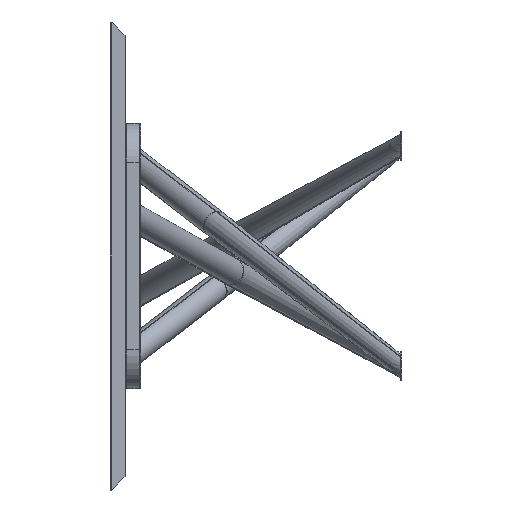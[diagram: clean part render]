
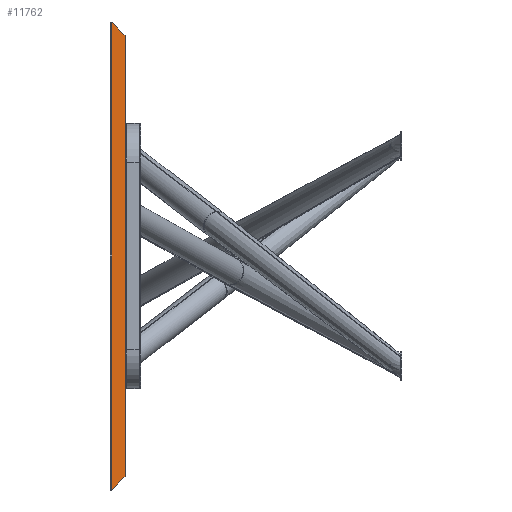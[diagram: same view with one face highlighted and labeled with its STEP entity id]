
A CAD part, left-side view. The second image highlights one B-rep face of the part: STEP entity #11762.
In plain terms, the highlighted planar face has unit normal (-0.707, -0.707, 0).
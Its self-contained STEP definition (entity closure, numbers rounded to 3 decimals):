
#601 = CARTESIAN_POINT ( 'NONE',  ( -1498.536, 33.536, -598.536 ) ) ;
#773 = DIRECTION ( 'NONE',  ( 0.577, -0.577, -0.577 ) ) ;
#1060 = VERTEX_POINT ( 'NONE', #1971 ) ;
#1667 = AXIS2_PLACEMENT_3D ( 'NONE', #7234, #10989, #7366 ) ;
#1672 = EDGE_CURVE ( 'NONE', #1735, #1804, #3302, .T. ) ;
#1727 = CARTESIAN_POINT ( 'NONE',  ( -1500., 35., 596.344 ) ) ;
#1735 = VERTEX_POINT ( 'NONE', #3279 ) ;
#1778 = LINE ( 'NONE', #12068, #9051 ) ;
#1804 = VERTEX_POINT ( 'NONE', #11312 ) ;
#1971 = CARTESIAN_POINT ( 'NONE',  ( -1498.536, 33.536, 598.536 ) ) ;
#2182 = ORIENTED_EDGE ( 'NONE', *, *, #10632, .T. ) ;
#2652 = LINE ( 'NONE', #7465, #8229 ) ;
#2807 = ORIENTED_EDGE ( 'NONE', *, *, #11530, .T. ) ;
#3279 = CARTESIAN_POINT ( 'NONE',  ( -1500., 35., -595. ) ) ;
#3294 = EDGE_CURVE ( 'NONE', #1060, #10266, #2652, .T. ) ;
#3302 =( BOUNDED_CURVE ( )  B_SPLINE_CURVE ( 3, ( #9874, #8948, #7846, #601 ),
 .UNSPECIFIED., .F., .F. ) 
 B_SPLINE_CURVE_WITH_KNOTS ( ( 4, 4 ),
 ( 3.142, 3.927 ),
 .UNSPECIFIED. ) 
 CURVE ( )  GEOMETRIC_REPRESENTATION_ITEM ( )  RATIONAL_B_SPLINE_CURVE ( ( 1., 0.949, 0.949, 1. ) ) 
 REPRESENTATION_ITEM ( '' )  );
#3549 = CARTESIAN_POINT ( 'NONE',  ( -1500., 35., 595. ) ) ;
#3789 = CARTESIAN_POINT ( 'NONE',  ( -1465.293, 0.293, 565.293 ) ) ;
#4014 = EDGE_LOOP ( 'NONE', ( #11877, #2807, #8538, #2182, #4334, #10153 ) ) ;
#4085 = CARTESIAN_POINT ( 'NONE',  ( -1465.293, 0.293, 565. ) ) ;
#4167 = VECTOR ( 'NONE', #9077, 1000. ) ;
#4334 = ORIENTED_EDGE ( 'NONE', *, *, #10883, .F. ) ;
#4965 = CARTESIAN_POINT ( 'NONE',  ( -1498.536, 33.536, 598.536 ) ) ;
#5408 = CARTESIAN_POINT ( 'NONE',  ( -1465.293, 0.293, -565.293 ) ) ;
#6575 = FACE_OUTER_BOUND ( 'NONE', #4014, .T. ) ;
#6674 = LINE ( 'NONE', #10922, #4167 ) ;
#7116 = VECTOR ( 'NONE', #7801, 1000. ) ;
#7234 = CARTESIAN_POINT ( 'NONE',  ( -1500., 35., -600. ) ) ;
#7366 = DIRECTION ( 'NONE',  ( 0., 0., 1. ) ) ;
#7465 = CARTESIAN_POINT ( 'NONE',  ( -1100., -365., 200. ) ) ;
#7801 = DIRECTION ( 'NONE',  ( 0., 0., 1. ) ) ;
#7846 = CARTESIAN_POINT ( 'NONE',  ( -1499.486, 34.486, -597.585 ) ) ;
#8229 = VECTOR ( 'NONE', #773, 1000. ) ;
#8538 = ORIENTED_EDGE ( 'NONE', *, *, #3294, .F. ) ;
#8685 = CARTESIAN_POINT ( 'NONE',  ( -1499.486, 34.486, 597.585 ) ) ;
#8948 = CARTESIAN_POINT ( 'NONE',  ( -1500., 35., -596.344 ) ) ;
#9051 = VECTOR ( 'NONE', #11139, 1000. ) ;
#9077 = DIRECTION ( 'NONE',  ( 0.577, -0.577, 0.577 ) ) ;
#9143 = PLANE ( 'NONE',  #1667 ) ;
#9645 = LINE ( 'NONE', #4085, #7116 ) ;
#9828 = CARTESIAN_POINT ( 'NONE',  ( -1500., 35., 595. ) ) ;
#9874 = CARTESIAN_POINT ( 'NONE',  ( -1500., 35., -595. ) ) ;
#10153 = ORIENTED_EDGE ( 'NONE', *, *, #1672, .T. ) ;
#10266 = VERTEX_POINT ( 'NONE', #3789 ) ;
#10331 = EDGE_CURVE ( 'NONE', #1804, #10397, #6674, .T. ) ;
#10397 = VERTEX_POINT ( 'NONE', #5408 ) ;
#10632 = EDGE_CURVE ( 'NONE', #1060, #11687, #11734, .T. ) ;
#10883 = EDGE_CURVE ( 'NONE', #1735, #11687, #1778, .T. ) ;
#10922 = CARTESIAN_POINT ( 'NONE',  ( -1500., 35., -600. ) ) ;
#10989 = DIRECTION ( 'NONE',  ( 0.707, 0.707, 0. ) ) ;
#11139 = DIRECTION ( 'NONE',  ( 0., 0., 1. ) ) ;
#11312 = CARTESIAN_POINT ( 'NONE',  ( -1498.536, 33.536, -598.536 ) ) ;
#11530 = EDGE_CURVE ( 'NONE', #10397, #10266, #9645, .T. ) ;
#11687 = VERTEX_POINT ( 'NONE', #9828 ) ;
#11734 =( BOUNDED_CURVE ( )  B_SPLINE_CURVE ( 3, ( #4965, #8685, #1727, #3549 ),
 .UNSPECIFIED., .F., .F. ) 
 B_SPLINE_CURVE_WITH_KNOTS ( ( 4, 4 ),
 ( 2.356, 3.142 ),
 .UNSPECIFIED. ) 
 CURVE ( )  GEOMETRIC_REPRESENTATION_ITEM ( )  RATIONAL_B_SPLINE_CURVE ( ( 1., 0.949, 0.949, 1. ) ) 
 REPRESENTATION_ITEM ( '' )  );
#11762 = ADVANCED_FACE ( 'NONE', ( #6575 ), #9143, .F. ) ;
#11877 = ORIENTED_EDGE ( 'NONE', *, *, #10331, .T. ) ;
#12068 = CARTESIAN_POINT ( 'NONE',  ( -1500., 35., -600. ) ) ;
